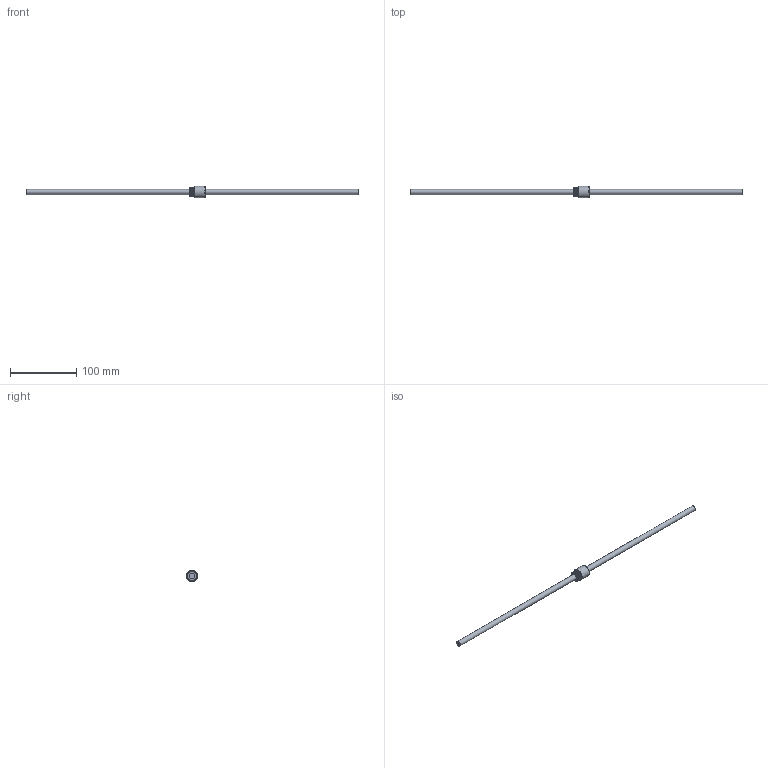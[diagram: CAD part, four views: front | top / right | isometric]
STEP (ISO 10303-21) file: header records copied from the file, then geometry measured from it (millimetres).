
FILE_DESCRIPTION (( 'STEP AP203' ), '1' );
FILE_NAME ('BSHR0082.5-2.5.step', '2024-05-31T07:16:30', ( '' ), ( '' ), 'SwSTEP 2.0', 'SolidWorks 2022', '' );
FILE_SCHEMA (( 'CONFIG_CONTROL_DESIGN' ));
Length unit declared in the file: millimetre
Products named in the file (1): BSHR0082.5-2.5
Bounding box: 500 x 17.5 x 17.5 mm (x, y, z)
Volume: 28754.7 mm3; surface area: 15064.7 mm2
Topology: 2 solids, 2 shells, 21 faces, 42 edges, 28 vertices
Faces by surface type: plane 7, cylinder 6, bspline 4, cone 2, torus 2
Full cylindrical faces by diameter (mm): 3 x1, 8 x1, 8.7 x1, 13.7 x1, 17.5 x1
Entity records: 2043 total; most frequent: CARTESIAN_POINT 1636, DIRECTION 62, ORIENTED_EDGE 56, EDGE_LOOP 33, AXIS2_PLACEMENT_3D 31, EDGE_CURVE 28, FACE_OUTER_BOUND 27, VERTEX_POINT 23
